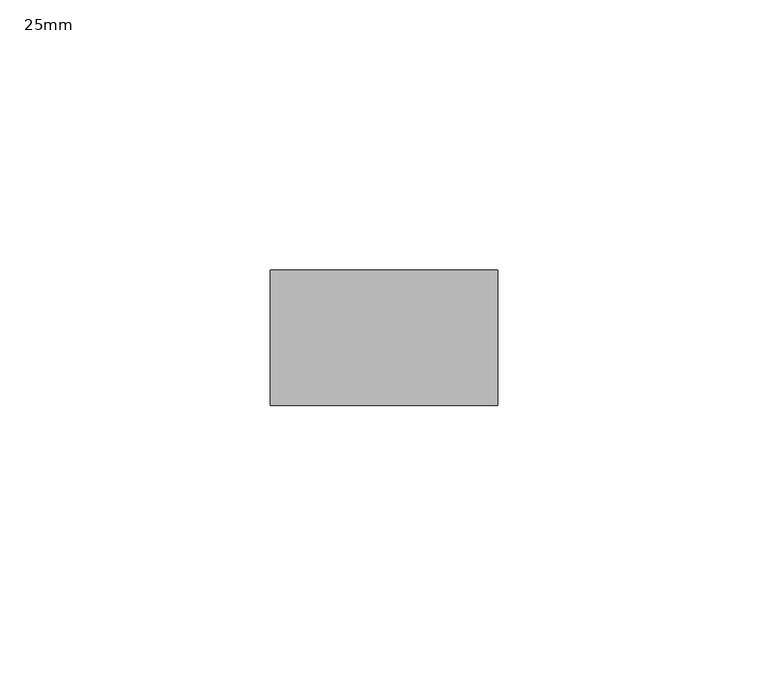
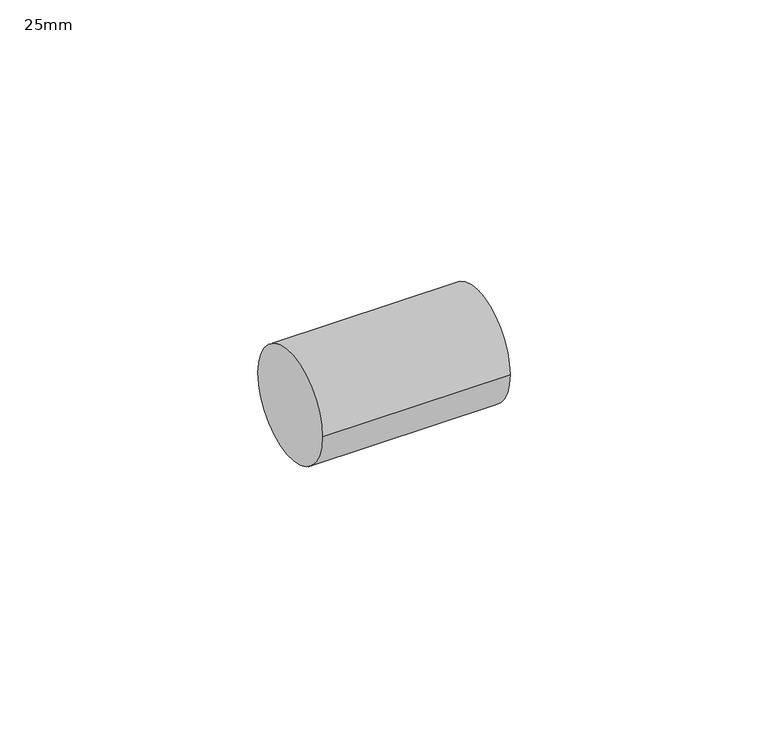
"""IFC4 building model written with IfcOpenShell, lengths in millimetres: pipe fitting geometry, PipeFitting_HTA_CPVC_PlainNipples : 25mm."""

from ifc_helpers import new_model, si_unit, point, frame, origin, origin_2d, place, context, project, spatial, circle_curve, trimmed, segment, composite_curve, outline, extrude, source, transform, mapped, element, save


def pipe_fitting_25mm_cc0c6c5c(model_context):
    return source(origin(), model_context, "Body", "SweptSolid", [
        extrude(outline(composite_curve([segment(trimmed(circle_curve(origin_2d(), 12.5), [point((-12.5, 0.0))], [point((12.5, 0.0))], False, "CARTESIAN"), True, "CONTINUOUS"), segment(trimmed(circle_curve(origin_2d(), 12.5), [point((12.5, 0.0))], [point((-12.5, 0.0))], False, "CARTESIAN"), True, "CONTINUOUS")], self_intersect=False)), frame((-21.0, 0.0, 0.0), z_axis=(1.0, 0.0, 0.0), x_axis=(0.0, 1.0, 0.0)), (0.0, 0.0, 1.0), 42.0),
    ])


if __name__ == "__main__":
    model = new_model("IFC4")
    model_context = context("Model", 3, world=origin())
    ifc_project = project(units=[si_unit("LENGTHUNIT", "METRE", prefix="MILLI")], contexts=[model_context])
    site = spatial("IfcSite", under=ifc_project)
    building = spatial("IfcBuilding", under=site)
    placement = place(None, origin())
    pipe_fitting_25mm_shape = pipe_fitting_25mm_cc0c6c5c(model_context)
    element("IfcPipeFitting", 1, ObjectType="PipeFitting_HTA_CPVC_PlainNipples : 25mm", at=placement, inside=building, context=model_context, shape_type="MappedRepresentation", body=[
        mapped(pipe_fitting_25mm_shape, transform((0.0, 0.0, 0.0), x_axis=(1.0, 0.0, 0.0), y_axis=(0.0, 1.0, 0.0), z_axis=(0.0, 0.0, 1.0))),
    ])
    save(model, "model.ifc")
